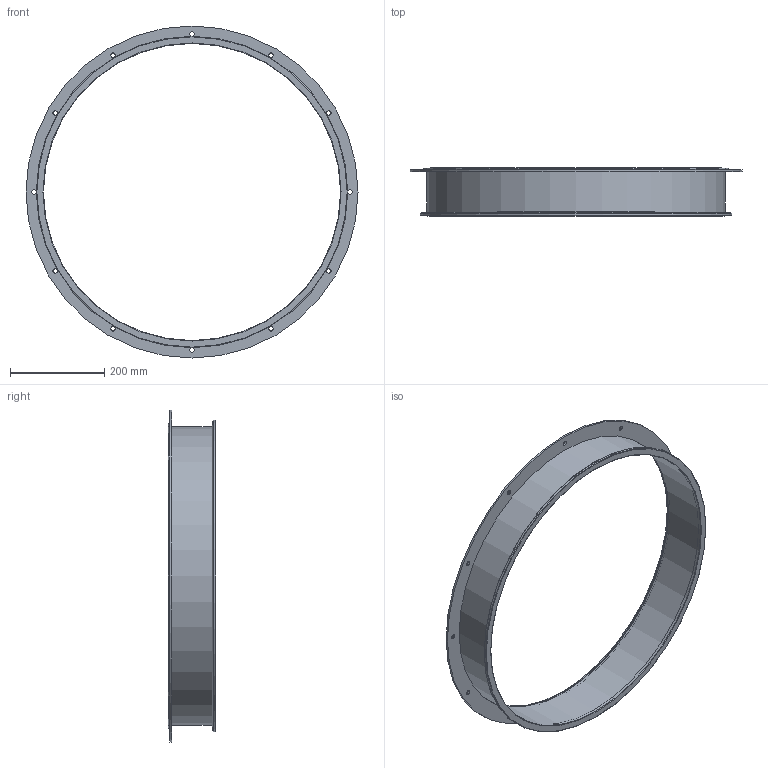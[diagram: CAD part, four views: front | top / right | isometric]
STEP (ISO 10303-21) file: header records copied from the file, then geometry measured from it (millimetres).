
FILE_DESCRIPTION(/* description */ (''),/* implementation_level */ '2;1');
FILE_NAME(/* name */ 'METU_EA113-41B_630_L100.stp',/* time_stamp */ '2018-10-10T13:36:32+02:00',/* author */ (''),/* organization */ (''),/* preprocessor_version */ 'ST-DEVELOPER v11',/* originating_system */ 'SIEMENS UGS NX 6.0',/* authorisation */ '');
FILE_SCHEMA (('CONFIG_CONTROL_DESIGN'));
Length unit declared in the file: millimetre
Products named in the file (1): garsCF17de9z
Bounding box: 704 x 101.5 x 704 mm (x, y, z)
Volume: 735910.2 mm3; surface area: 697444 mm2
Topology: 3 solids, 3 shells, 36 faces, 93 edges, 66 vertices
Faces by surface type: cylinder 21, plane 9, torus 5, cone 1
Full cylindrical faces by diameter (mm): 9.5 x12, 630 x2, 632 x2, 634 x1, 642 x2, 660 x1, 704 x1
Entity records: 986 total; most frequent: DIRECTION 170, CARTESIAN_POINT 133, FACE_BOUND 96, EDGE_LOOP 96, ORIENTED_EDGE 96, AXIS2_PLACEMENT_3D 85, VERTEX_POINT 48, EDGE_CURVE 48
